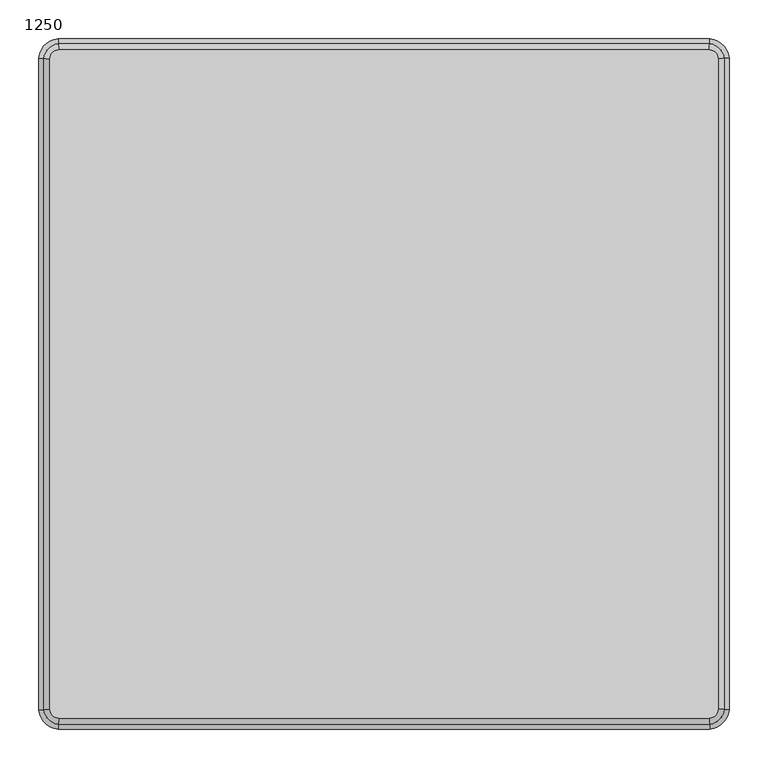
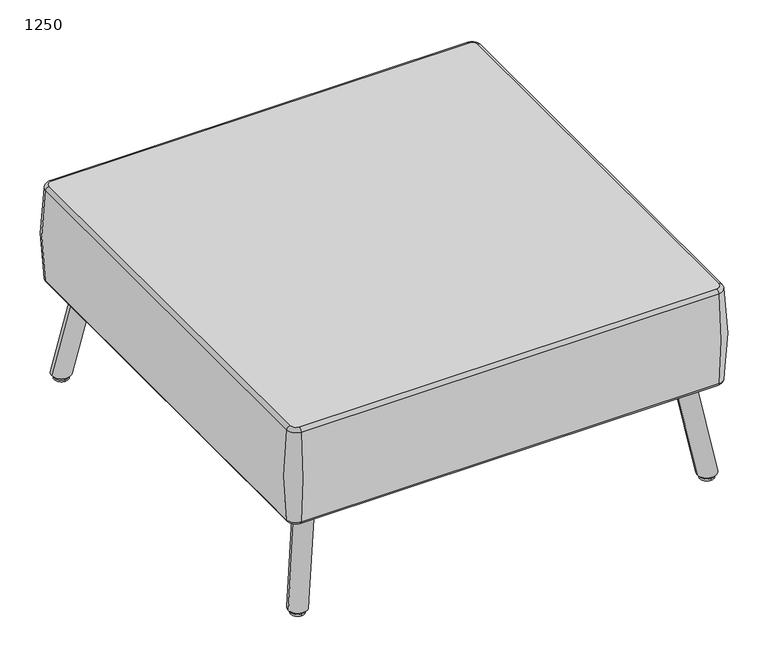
"""IFC4 building model written with IfcOpenShell, lengths in millimetres: furniture geometry, Laguna-Square_Ottomans-With_Legs-ERG : 1250."""

from ifc_helpers import new_model, si_unit, point, frame, frame_2d, origin, place, context, project, spatial, polyline, circle_curve, ellipse_curve, trimmed, segment, composite_curve, outline, extrude, source, transform, mapped, element, save
from ifc_brep_helpers import plane_surface, cylinder_surface, revolved_surface, spline_surface, advanced_brep


def furniture_1250_eddf934c(model_context):
    return source(origin(), model_context, "Body", "SolidModel", [
        advanced_brep(
        [(-4775.5733418, 1358.6509177, 406.4), (-4787.2364147, 1346.9878465, 406.4), (-4787.2364147, 511.7238539, 406.4), (-4775.5733418, 500.0607827, 406.4), (-3940.3102369, 500.0608348, 406.4), (-3928.6471657, 511.723906, 406.4), (-3928.6471657, 1346.9877943, 406.4), (-3940.3102369, 1358.6508656, 406.4), (-4787.2364147, 1346.9878465, 203.2), (-4775.5733418, 1358.6509177, 203.2), (-3940.3102369, 1358.6508656, 203.2), (-3928.6471657, 1346.9877943, 203.2), (-3928.6471657, 511.723906, 203.2), (-3940.3102369, 500.0608348, 203.2), (-4775.5733418, 500.0607827, 203.2), (-4787.2364147, 511.7238539, 203.2), (-4794.7723063, 1347.4949959, 399.7887299), (-4776.0804902, 1366.1868094, 399.7887299), (-4776.0804902, 1366.1868094, 209.8112701), (-4794.7723063, 1347.4949959, 209.8112701), (-4794.7723063, 511.2167044, 209.8112701), (-4794.7723063, 511.2167044, 399.7887299), (-4776.0804902, 492.5248909, 209.8112701), (-4776.0804902, 492.5248909, 399.7887299), (-3939.8030877, 492.5249431, 209.8112701), (-3939.8030877, 492.5249431, 399.7887299), (-3921.111274, 511.2167567, 209.8112701), (-3921.111274, 511.2167567, 399.7887299), (-3921.111274, 1347.4949436, 209.8112701), (-3921.111274, 1347.4949436, 399.7887299), (-3939.8030877, 1366.1867573, 209.8112701), (-3939.8030877, 1366.1867573, 399.7887299)],
        [
            (0, 1, circle_curve(frame((-4774.7318104, 1346.1463133, 406.4), z_axis=(0.0, 0.0, 1.0), x_axis=(-0.0671458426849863, 0.9977431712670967, 0.0)), 12.5328889)),
            (1, 2, circle_curve(frame((1418.487889, 929.3558502, 406.4), z_axis=(0.0, 0.0, 1.0), x_axis=(-0.9977431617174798, 0.06714598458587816, 0.0)), 6219.7612991)),
            (2, 3, circle_curve(frame((-4774.7318104, 512.565387, 406.4), z_axis=(0.0, 0.0, 1.0), x_axis=(-0.9977431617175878, -0.06714598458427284, 0.0)), 12.5328889)),
            (3, 4, circle_curve(frame((-4357.9421763, 6705.7859155, 406.4), z_axis=(0.0, 0.0, 1.0), x_axis=(-0.06714584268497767, -0.9977431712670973, 0.0)), 6219.7620706)),
            (4, 5, circle_curve(frame((-3941.1517699, 512.565439, 406.4), z_axis=(0.0, 0.0, 1.0), x_axis=(0.06714596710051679, -0.9977431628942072, 0.0)), 12.5328889)),
            (5, 6, circle_curve(frame((-10134.3722416, 929.3558502, 406.4), z_axis=(0.0, 0.0, 1.0), x_axis=(0.9977431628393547, -0.06714596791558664, 0.0)), 6219.7620661)),
            (6, 7, circle_curve(frame((-3941.1517699, 1346.1462613, 406.4), z_axis=(0.0, 0.0, 1.0), x_axis=(0.9977431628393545, 0.06714596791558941, 0.0)), 12.5328889)),
            (7, 0, circle_curve(frame((-4357.9421763, -4847.0742152, 406.4), z_axis=(0.0, 0.0, 1.0), x_axis=(0.06714596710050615, 0.9977431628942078, 0.0)), 6219.7620706)),
            (8, 9, circle_curve(frame((-4774.7318104, 1346.1463133, 203.2), z_axis=(0.0, 0.0, -1.0), x_axis=(-0.0671458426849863, 0.9977431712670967, 0.0)), 12.5328889)),
            (9, 10, circle_curve(frame((-4357.9421763, -4847.0742152, 203.2), z_axis=(0.0, 0.0, -1.0), x_axis=(0.06714596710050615, 0.9977431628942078, 0.0)), 6219.7620706)),
            (10, 11, circle_curve(frame((-3941.1517699, 1346.1462613, 203.2), z_axis=(0.0, 0.0, -1.0), x_axis=(0.9977431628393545, 0.06714596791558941, 0.0)), 12.5328889)),
            (11, 12, circle_curve(frame((-10134.3722416, 929.3558502, 203.2), z_axis=(0.0, 0.0, -1.0), x_axis=(0.9977431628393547, -0.06714596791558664, 0.0)), 6219.7620661)),
            (12, 13, circle_curve(frame((-3941.1517699, 512.565439, 203.2), z_axis=(0.0, 0.0, -1.0), x_axis=(0.06714596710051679, -0.9977431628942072, 0.0)), 12.5328889)),
            (13, 14, circle_curve(frame((-4357.9421763, 6705.7859155, 203.2), z_axis=(0.0, 0.0, -1.0), x_axis=(-0.06714584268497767, -0.9977431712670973, 0.0)), 6219.7620706)),
            (14, 15, circle_curve(frame((-4774.7318104, 512.565387, 203.2), z_axis=(0.0, 0.0, -1.0), x_axis=(-0.9977431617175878, -0.06714598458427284, 0.0)), 12.5328889)),
            (15, 8, circle_curve(frame((1418.487889, 929.3558502, 203.2), z_axis=(0.0, 0.0, -1.0), x_axis=(-0.9977431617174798, 0.06714598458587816, 0.0)), 6219.7612991)),
            (16, 17, circle_curve(frame((-4774.7318104, 1346.1463133, 399.7887299), z_axis=(0.0, 0.0, -1.0), x_axis=(-0.0671458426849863, 0.9977431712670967, 0.0)), 20.0858264)),
            (17, 18, circle_curve(frame((-4728.3240206, 656.5570022, 304.8), z_axis=(-0.9977431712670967, -0.06714584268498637, 0.0), x_axis=(0.06714584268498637, -0.9977431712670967, 0.0)), 717.55)),
            (18, 19, circle_curve(frame((-4774.7318104, 1346.1463133, 209.8112701), z_axis=(0.0, 0.0, 1.0), x_axis=(-0.0671458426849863, 0.9977431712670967, 0.0)), 20.0858264)),
            (19, 16, circle_curve(frame((-4085.1425059, 1299.7384254, 304.8), z_axis=(0.06714598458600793, 0.997743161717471, 0.0), x_axis=(0.997743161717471, -0.06714598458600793, 0.0)), 717.55)),
            (16, 1, circle_curve(frame((-4787.2364147, 1346.9878465, 398.78), z_axis=(0.06714598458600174, 0.9977431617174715, 0.0), x_axis=(0.9977431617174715, -0.06714598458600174, 0.0)), 7.62)),
            (0, 17, circle_curve(frame((-4775.5733418, 1358.6509177, 398.78), z_axis=(-0.9977431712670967, -0.06714584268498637, 0.0), x_axis=(0.06714584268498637, -0.9977431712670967, 0.0)), 7.62)),
            (18, 9, circle_curve(frame((-4775.5733418, 1358.6509177, 210.82), z_axis=(-0.9977431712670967, -0.06714584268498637, 0.0), x_axis=(0.06714584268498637, -0.9977431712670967, 0.0)), 7.62)),
            (8, 19, circle_curve(frame((-4787.2364147, 1346.9878465, 210.82), z_axis=(0.06714598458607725, 0.9977431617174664, 0.0), x_axis=(0.9977431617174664, -0.06714598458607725, 0.0)), 7.62)),
            (19, 20, circle_curve(frame((1418.487889, 929.3558502, 209.8112701), z_axis=(0.0, 0.0, 1.0), x_axis=(-0.9977431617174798, 0.06714598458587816, 0.0)), 6227.3142365)),
            (20, 21, circle_curve(frame((-4085.1425059, 558.9732749, 304.8), z_axis=(-0.06714598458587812, 0.9977431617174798, 0.0), x_axis=(0.9977431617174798, 0.06714598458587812, 0.0)), 717.55)),
            (21, 16, circle_curve(frame((1418.487889, 929.3558502, 399.7887299), z_axis=(0.0, 0.0, -1.0), x_axis=(-0.9977431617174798, 0.06714598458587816, 0.0)), 6227.3142365)),
            (21, 2, circle_curve(frame((-4787.2364147, 511.7238539, 398.78), z_axis=(-0.06714598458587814, 0.9977431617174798, 0.0), x_axis=(0.9977431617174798, 0.06714598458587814, 0.0)), 7.62)),
            (15, 20, circle_curve(frame((-4787.2364147, 511.7238539, 210.82), z_axis=(-0.06714598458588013, 0.9977431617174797, 0.0), x_axis=(0.9977431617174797, 0.06714598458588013, 0.0)), 7.62)),
            (20, 22, circle_curve(frame((-4774.7318104, 512.565387, 209.8112701), z_axis=(0.0, 0.0, 1.0), x_axis=(-0.9977431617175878, -0.06714598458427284, 0.0)), 20.0858264)),
            (22, 23, circle_curve(frame((-4728.3240206, 1202.1546981, 304.8), z_axis=(-0.9977431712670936, 0.06714584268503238, 0.0), x_axis=(0.06714584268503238, 0.9977431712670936, 0.0)), 717.55)),
            (23, 21, circle_curve(frame((-4774.7318104, 512.565387, 399.7887299), z_axis=(0.0, 0.0, -1.0), x_axis=(-0.9977431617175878, -0.06714598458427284, 0.0)), 20.0858264)),
            (23, 3, circle_curve(frame((-4775.5733418, 500.0607827, 398.78), z_axis=(-0.9977431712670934, 0.0671458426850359, 0.0), x_axis=(0.0671458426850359, 0.9977431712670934, 0.0)), 7.62)),
            (14, 22, circle_curve(frame((-4775.5733418, 500.0607827, 210.82), z_axis=(-0.9977431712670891, 0.06714584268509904, 0.0), x_axis=(0.06714584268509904, 0.9977431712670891, 0.0)), 7.62)),
            (22, 24, circle_curve(frame((-4357.9421763, 6705.7859155, 209.8112701), z_axis=(0.0, 0.0, 1.0), x_axis=(-0.06714584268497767, -0.9977431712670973, 0.0)), 6227.315008)),
            (24, 25, circle_curve(frame((-3987.5596457, 1202.1547443, 304.8), z_axis=(-0.9977431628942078, -0.06714596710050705, 0.0), x_axis=(-0.06714596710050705, 0.9977431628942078, 0.0)), 717.55)),
            (25, 23, circle_curve(frame((-4357.9421763, 6705.7859155, 399.7887299), z_axis=(0.0, 0.0, -1.0), x_axis=(-0.06714584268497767, -0.9977431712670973, 0.0)), 6227.315008)),
            (25, 4, circle_curve(frame((-3940.3102369, 500.0608348, 398.78), z_axis=(-0.9977431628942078, -0.06714596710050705, 0.0), x_axis=(-0.06714596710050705, 0.9977431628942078, 0.0)), 7.62)),
            (13, 24, circle_curve(frame((-3940.3102369, 500.0608348, 210.82), z_axis=(-0.9977431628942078, -0.06714596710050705, 0.0), x_axis=(-0.06714596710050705, 0.9977431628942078, 0.0)), 7.62)),
            (24, 26, circle_curve(frame((-3941.1517699, 512.565439, 209.8112701), z_axis=(0.0, 0.0, 1.0), x_axis=(0.06714596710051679, -0.9977431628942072, 0.0)), 20.0858264)),
            (26, 27, circle_curve(frame((-4630.7410752, 558.9733154, 304.8), z_axis=(-0.06714596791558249, -0.997743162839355, 0.0), x_axis=(-0.997743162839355, 0.06714596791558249, 0.0)), 717.55)),
            (27, 25, circle_curve(frame((-3941.1517699, 512.565439, 399.7887299), z_axis=(0.0, 0.0, -1.0), x_axis=(0.06714596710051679, -0.9977431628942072, 0.0)), 20.0858264)),
            (27, 5, circle_curve(frame((-3928.6471657, 511.723906, 398.78), z_axis=(-0.06714596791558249, -0.997743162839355, 0.0), x_axis=(-0.997743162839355, 0.06714596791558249, 0.0)), 7.62)),
            (12, 26, circle_curve(frame((-3928.6471657, 511.723906, 210.82), z_axis=(-0.06714596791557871, -0.9977431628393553, 0.0), x_axis=(-0.9977431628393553, 0.06714596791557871, 0.0)), 7.62)),
            (26, 28, circle_curve(frame((-10134.3722416, 929.3558502, 209.8112701), z_axis=(0.0, 0.0, 1.0), x_axis=(0.9977431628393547, -0.06714596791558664, 0.0)), 6227.3150036)),
            (28, 29, circle_curve(frame((-4630.7410752, 1299.738385, 304.8), z_axis=(0.06714596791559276, -0.9977431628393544, 0.0), x_axis=(-0.9977431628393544, -0.06714596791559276, 0.0)), 717.55)),
            (29, 27, circle_curve(frame((-10134.3722416, 929.3558502, 399.7887299), z_axis=(0.0, 0.0, -1.0), x_axis=(0.9977431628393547, -0.06714596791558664, 0.0)), 6227.3150036)),
            (29, 6, circle_curve(frame((-3928.6471657, 1346.9877943, 398.78), z_axis=(0.06714596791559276, -0.9977431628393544, 0.0), x_axis=(-0.9977431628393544, -0.06714596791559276, 0.0)), 7.62)),
            (11, 28, circle_curve(frame((-3928.6471657, 1346.9877943, 210.82), z_axis=(0.06714596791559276, -0.9977431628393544, 0.0), x_axis=(-0.9977431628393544, -0.06714596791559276, 0.0)), 7.62)),
            (28, 30, circle_curve(frame((-3941.1517699, 1346.1462613, 209.8112701), z_axis=(0.0, 0.0, 1.0), x_axis=(0.9977431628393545, 0.06714596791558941, 0.0)), 20.0858264)),
            (30, 31, circle_curve(frame((-3987.5596457, 656.556956, 304.8), z_axis=(0.9977431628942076, -0.06714596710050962, 0.0), x_axis=(-0.06714596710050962, -0.9977431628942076, 0.0)), 717.55)),
            (31, 29, circle_curve(frame((-3941.1517699, 1346.1462613, 399.7887299), z_axis=(0.0, 0.0, -1.0), x_axis=(0.9977431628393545, 0.06714596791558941, 0.0)), 20.0858264)),
            (31, 7, circle_curve(frame((-3940.3102369, 1358.6508656, 398.78), z_axis=(0.9977431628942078, -0.06714596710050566, 0.0), x_axis=(-0.06714596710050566, -0.9977431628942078, 0.0)), 7.62)),
            (10, 30, circle_curve(frame((-3940.3102369, 1358.6508656, 210.82), z_axis=(0.9977431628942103, -0.06714596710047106, 0.0), x_axis=(-0.06714596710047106, -0.9977431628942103, 0.0)), 7.62)),
            (17, 31, circle_curve(frame((-4357.9421763, -4847.0742152, 399.7887299), z_axis=(0.0, 0.0, -1.0), x_axis=(0.06714596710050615, 0.9977431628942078, 0.0)), 6227.315008)),
            (30, 18, circle_curve(frame((-4357.9421763, -4847.0742152, 209.8112701), z_axis=(0.0, 0.0, 1.0), x_axis=(0.06714596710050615, 0.9977431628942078, 0.0)), 6227.315008)),
        ],
        [
            plane_surface(frame((-4762.1989215, 1346.1463133, 406.4), z_axis=(0.0, 0.0, 1.0), x_axis=(0.0, 1.0, 0.0))),
            plane_surface(frame((-4762.1989215, 1346.1463133, 203.2), z_axis=(0.0, 0.0, -1.0), x_axis=(0.0, -1.0, 0.0))),
            revolved_surface(trimmed(ellipse_curve(frame((-4728.3240206, 656.5570022, 304.8), z_axis=(0.9977431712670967, 0.06714584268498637, 0.0), x_axis=(0.06714584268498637, -0.9977431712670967, 0.0)), 717.55, 717.55), [point((-4776.0804902, 1366.1868094, 209.8112701))], [point((-4776.0804902, 1366.1868094, 399.7887299))], True, "CARTESIAN"), (-4774.7318104, 1346.1463133, 0.0), (0.0, 0.0, 1.0)),
            revolved_surface(trimmed(ellipse_curve(frame((-4775.5733418, 1358.6509177, 398.78), z_axis=(0.9977431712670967, 0.06714584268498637, 0.0), x_axis=(0.06714584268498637, -0.9977431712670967, 0.0)), 7.62, 7.62), [point((-4776.0804902, 1366.1868094, 399.7887299))], [point((-4775.5733418, 1358.6509177, 406.4))], True, "CARTESIAN"), (-4774.7318104, 1346.1463133, 0.0), (0.0, 0.0, 1.0)),
            revolved_surface(trimmed(ellipse_curve(frame((-4775.5733418, 1358.6509177, 210.82), z_axis=(0.9977431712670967, 0.06714584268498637, 0.0), x_axis=(0.06714584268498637, -0.9977431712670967, 0.0)), 7.62, 7.62), [point((-4775.5733418, 1358.6509177, 203.2))], [point((-4776.0804902, 1366.1868094, 209.8112701))], True, "CARTESIAN"), (-4774.7318104, 1346.1463133, 0.0), (0.0, 0.0, 1.0)),
            revolved_surface(trimmed(ellipse_curve(frame((-4085.1425059, 1299.7384254, 304.8), z_axis=(0.06714598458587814, 0.9977431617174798, 0.0), x_axis=(0.9977431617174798, -0.06714598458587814, 0.0)), 717.55, 717.55), [point((-4794.7723063, 1347.4949959, 209.8112701))], [point((-4794.7723063, 1347.4949959, 399.7887299))], True, "CARTESIAN"), (1418.487889, 929.3558502, 0.0), (0.0, 0.0, 1.0)),
            revolved_surface(trimmed(ellipse_curve(frame((-4787.2364147, 1346.9878465, 398.78), z_axis=(0.06714598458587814, 0.9977431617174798, 0.0), x_axis=(0.9977431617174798, -0.06714598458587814, 0.0)), 7.62, 7.62), [point((-4794.7723063, 1347.4949959, 399.7887299))], [point((-4787.2364147, 1346.9878465, 406.4))], True, "CARTESIAN"), (1418.487889, 929.3558502, 0.0), (0.0, 0.0, 1.0)),
            revolved_surface(trimmed(ellipse_curve(frame((-4787.2364147, 1346.9878465, 210.82), z_axis=(0.06714598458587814, 0.9977431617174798, 0.0), x_axis=(0.9977431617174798, -0.06714598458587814, 0.0)), 7.62, 7.62), [point((-4787.2364147, 1346.9878465, 203.2))], [point((-4794.7723063, 1347.4949959, 209.8112701))], True, "CARTESIAN"), (1418.487889, 929.3558502, 0.0), (0.0, 0.0, 1.0)),
            revolved_surface(trimmed(ellipse_curve(frame((-4085.1425059, 558.9732749, 304.8), z_axis=(-0.06714598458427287, 0.9977431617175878, 0.0), x_axis=(0.9977431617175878, 0.06714598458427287, 0.0)), 717.55, 717.55), [point((-4794.7723063, 511.2167044, 209.8112701))], [point((-4794.7723063, 511.2167044, 399.7887299))], True, "CARTESIAN"), (-4774.7318104, 512.565387, 0.0), (0.0, 0.0, 1.0)),
            revolved_surface(trimmed(ellipse_curve(frame((-4787.2364147, 511.7238539, 398.78), z_axis=(-0.06714598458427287, 0.9977431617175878, 0.0), x_axis=(0.9977431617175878, 0.06714598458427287, 0.0)), 7.62, 7.62), [point((-4794.7723063, 511.2167044, 399.7887299))], [point((-4787.2364147, 511.7238539, 406.4))], True, "CARTESIAN"), (-4774.7318104, 512.565387, 0.0), (0.0, 0.0, 1.0)),
            revolved_surface(trimmed(ellipse_curve(frame((-4787.2364147, 511.7238539, 210.82), z_axis=(-0.06714598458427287, 0.9977431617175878, 0.0), x_axis=(0.9977431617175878, 0.06714598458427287, 0.0)), 7.62, 7.62), [point((-4787.2364147, 511.7238539, 203.2))], [point((-4794.7723063, 511.2167044, 209.8112701))], True, "CARTESIAN"), (-4774.7318104, 512.565387, 0.0), (0.0, 0.0, 1.0)),
            revolved_surface(trimmed(ellipse_curve(frame((-4728.3240206, 1202.1546981, 304.8), z_axis=(-0.9977431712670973, 0.06714584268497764, 0.0), x_axis=(0.06714584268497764, 0.9977431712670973, 0.0)), 717.55, 717.55), [point((-4776.0804902, 492.5248909, 209.8112701))], [point((-4776.0804902, 492.5248909, 399.7887299))], True, "CARTESIAN"), (-4357.9421763, 6705.7859155, 0.0), (0.0, 0.0, 1.0)),
            revolved_surface(trimmed(ellipse_curve(frame((-4775.5733418, 500.0607827, 398.78), z_axis=(-0.9977431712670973, 0.06714584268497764, 0.0), x_axis=(0.06714584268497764, 0.9977431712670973, 0.0)), 7.62, 7.62), [point((-4776.0804902, 492.5248909, 399.7887299))], [point((-4775.5733418, 500.0607827, 406.4))], True, "CARTESIAN"), (-4357.9421763, 6705.7859155, 0.0), (0.0, 0.0, 1.0)),
            revolved_surface(trimmed(ellipse_curve(frame((-4775.5733418, 500.0607827, 210.82), z_axis=(-0.9977431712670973, 0.06714584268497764, 0.0), x_axis=(0.06714584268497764, 0.9977431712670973, 0.0)), 7.62, 7.62), [point((-4775.5733418, 500.0607827, 203.2))], [point((-4776.0804902, 492.5248909, 209.8112701))], True, "CARTESIAN"), (-4357.9421763, 6705.7859155, 0.0), (0.0, 0.0, 1.0)),
            revolved_surface(trimmed(ellipse_curve(frame((-3987.5596457, 1202.1547443, 304.8), z_axis=(-0.9977431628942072, -0.06714596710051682, 0.0), x_axis=(-0.06714596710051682, 0.9977431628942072, 0.0)), 717.55, 717.55), [point((-3939.8030877, 492.5249431, 209.8112701))], [point((-3939.8030877, 492.5249431, 399.7887299))], True, "CARTESIAN"), (-3941.1517699, 512.565439, 0.0), (0.0, 0.0, 1.0)),
            revolved_surface(trimmed(ellipse_curve(frame((-3940.3102369, 500.0608348, 398.78), z_axis=(-0.9977431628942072, -0.06714596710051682, 0.0), x_axis=(-0.06714596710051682, 0.9977431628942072, 0.0)), 7.62, 7.62), [point((-3939.8030877, 492.5249431, 399.7887299))], [point((-3940.3102369, 500.0608348, 406.4))], True, "CARTESIAN"), (-3941.1517699, 512.565439, 0.0), (0.0, 0.0, 1.0)),
            revolved_surface(trimmed(ellipse_curve(frame((-3940.3102369, 500.0608348, 210.82), z_axis=(-0.9977431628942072, -0.06714596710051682, 0.0), x_axis=(-0.06714596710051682, 0.9977431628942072, 0.0)), 7.62, 7.62), [point((-3940.3102369, 500.0608348, 203.2))], [point((-3939.8030877, 492.5249431, 209.8112701))], True, "CARTESIAN"), (-3941.1517699, 512.565439, 0.0), (0.0, 0.0, 1.0)),
            revolved_surface(trimmed(ellipse_curve(frame((-4630.7410752, 558.9733154, 304.8), z_axis=(-0.06714596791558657, -0.9977431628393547, 0.0), x_axis=(-0.9977431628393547, 0.06714596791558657, 0.0)), 717.55, 717.55), [point((-3921.111274, 511.2167567, 209.8112701))], [point((-3921.111274, 511.2167567, 399.7887299))], True, "CARTESIAN"), (-10134.3722416, 929.3558502, 0.0), (0.0, 0.0, 1.0)),
            revolved_surface(trimmed(ellipse_curve(frame((-3928.6471657, 511.723906, 398.78), z_axis=(-0.06714596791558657, -0.9977431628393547, 0.0), x_axis=(-0.9977431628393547, 0.06714596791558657, 0.0)), 7.62, 7.62), [point((-3921.111274, 511.2167567, 399.7887299))], [point((-3928.6471657, 511.723906, 406.4))], True, "CARTESIAN"), (-10134.3722416, 929.3558502, 0.0), (0.0, 0.0, 1.0)),
            revolved_surface(trimmed(ellipse_curve(frame((-3928.6471657, 511.723906, 210.82), z_axis=(-0.06714596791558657, -0.9977431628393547, 0.0), x_axis=(-0.9977431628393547, 0.06714596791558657, 0.0)), 7.62, 7.62), [point((-3928.6471657, 511.723906, 203.2))], [point((-3921.111274, 511.2167567, 209.8112701))], True, "CARTESIAN"), (-10134.3722416, 929.3558502, 0.0), (0.0, 0.0, 1.0)),
            revolved_surface(trimmed(ellipse_curve(frame((-4630.7410752, 1299.738385, 304.8), z_axis=(0.06714596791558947, -0.9977431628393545, 0.0), x_axis=(-0.9977431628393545, -0.06714596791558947, 0.0)), 717.55, 717.55), [point((-3921.111274, 1347.4949436, 209.8112701))], [point((-3921.111274, 1347.4949436, 399.7887299))], True, "CARTESIAN"), (-3941.1517699, 1346.1462613, 0.0), (0.0, 0.0, 1.0)),
            revolved_surface(trimmed(ellipse_curve(frame((-3928.6471657, 1346.9877943, 398.78), z_axis=(0.06714596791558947, -0.9977431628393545, 0.0), x_axis=(-0.9977431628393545, -0.06714596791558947, 0.0)), 7.62, 7.62), [point((-3921.111274, 1347.4949436, 399.7887299))], [point((-3928.6471657, 1346.9877943, 406.4))], True, "CARTESIAN"), (-3941.1517699, 1346.1462613, 0.0), (0.0, 0.0, 1.0)),
            revolved_surface(trimmed(ellipse_curve(frame((-3928.6471657, 1346.9877943, 210.82), z_axis=(0.06714596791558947, -0.9977431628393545, 0.0), x_axis=(-0.9977431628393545, -0.06714596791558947, 0.0)), 7.62, 7.62), [point((-3928.6471657, 1346.9877943, 203.2))], [point((-3921.111274, 1347.4949436, 209.8112701))], True, "CARTESIAN"), (-3941.1517699, 1346.1462613, 0.0), (0.0, 0.0, 1.0)),
            revolved_surface(trimmed(ellipse_curve(frame((-3987.5596457, 656.556956, 304.8), z_axis=(0.9977431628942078, -0.06714596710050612, 0.0), x_axis=(-0.06714596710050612, -0.9977431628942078, 0.0)), 717.55, 717.55), [point((-3939.8030877, 1366.1867573, 209.8112701))], [point((-3939.8030877, 1366.1867573, 399.7887299))], True, "CARTESIAN"), (-4357.9421763, -4847.0742152, 0.0), (0.0, 0.0, 1.0)),
            revolved_surface(trimmed(ellipse_curve(frame((-3940.3102369, 1358.6508656, 398.78), z_axis=(0.9977431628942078, -0.06714596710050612, 0.0), x_axis=(-0.06714596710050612, -0.9977431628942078, 0.0)), 7.62, 7.62), [point((-3939.8030877, 1366.1867573, 399.7887299))], [point((-3940.3102369, 1358.6508656, 406.4))], True, "CARTESIAN"), (-4357.9421763, -4847.0742152, 0.0), (0.0, 0.0, 1.0)),
            revolved_surface(trimmed(ellipse_curve(frame((-3940.3102369, 1358.6508656, 210.82), z_axis=(0.9977431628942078, -0.06714596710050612, 0.0), x_axis=(-0.06714596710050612, -0.9977431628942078, 0.0)), 7.62, 7.62), [point((-3940.3102369, 1358.6508656, 203.2))], [point((-3939.8030877, 1366.1867573, 209.8112701))], True, "CARTESIAN"), (-4357.9421763, -4847.0742152, 0.0), (0.0, 0.0, 1.0)),
        ],
        [
            (0, [[1, 2, 3, 4, 5, 6, 7, 8]]),
            (1, [[9, 10, 11, 12, 13, 14, 15, 16]]),
            (2, [[17, 18, 19, 20]]),
            (3, [[-17, 21, -1, 22]]),
            (4, [[-19, 23, -9, 24]]),
            (5, [[-20, 25, 26, 27]]),
            (6, [[-21, -27, 28, -2]]),
            (7, [[-24, -16, 29, -25]]),
            (8, [[-26, 30, 31, 32]]),
            (9, [[-28, -32, 33, -3]]),
            (10, [[-29, -15, 34, -30]]),
            (11, [[-31, 35, 36, 37]]),
            (12, [[-33, -37, 38, -4]]),
            (13, [[-34, -14, 39, -35]]),
            (14, [[-36, 40, 41, 42]]),
            (15, [[-38, -42, 43, -5]]),
            (16, [[-39, -13, 44, -40]]),
            (17, [[-41, 45, 46, 47]]),
            (18, [[-43, -47, 48, -6]]),
            (19, [[-44, -12, 49, -45]]),
            (20, [[-46, 50, 51, 52]]),
            (21, [[-48, -52, 53, -7]]),
            (22, [[-49, -11, 54, -50]]),
            (23, [[-18, 55, -51, 56]]),
            (24, [[-22, -8, -53, -55]]),
            (25, [[-23, -56, -54, -10]]),
        ],
    ),
        extrude(outline(composite_curve([segment(trimmed(circle_curve(frame_2d((-4730.6187381, 1345.1376413)), 5.08), [point((-4734.2108405, 1348.7297438))], [point((-4727.0266356, 1348.7297438))], False, "CARTESIAN"), True, "CONTINUOUS"), segment(polyline([(-4727.0266356, 1348.7297438), (-4698.289816, 1319.9929242)]), True, "CONTINUOUS"), segment(trimmed(circle_curve(frame_2d((-4701.8819185, 1316.4008217)), 5.08), [point((-4698.289816, 1319.9929242))], [point((-4698.289816, 1312.8087193))], False, "CARTESIAN"), True, "CONTINUOUS"), segment(polyline([(-4698.289816, 1312.8087193), (-4741.3950454, 1269.7034899)]), True, "CONTINUOUS"), segment(trimmed(circle_curve(frame_2d((-4744.9871479, 1273.2955923)), 5.08), [point((-4741.3950454, 1269.7034899))], [point((-4748.5792503, 1269.7034899))], False, "CARTESIAN"), True, "CONTINUOUS"), segment(polyline([(-4748.5792503, 1269.7034899), (-4777.3160699, 1298.4403095)]), True, "CONTINUOUS"), segment(trimmed(circle_curve(frame_2d((-4773.7239674, 1302.0324119)), 5.08), [point((-4777.3160699, 1298.4403095))], [point((-4777.3160699, 1305.6245144))], False, "CARTESIAN"), True, "CONTINUOUS"), segment(polyline([(-4777.3160699, 1305.6245144), (-4734.2108405, 1348.7297438)]), True, "CONTINUOUS")], self_intersect=False)), frame((0.0, 0.0, 200.66), z_axis=(0.0, 0.0, 1.0), x_axis=(1.0, 0.0, 0.0)), (0.0, 0.0, 1.0), 2.54),
        extrude(outline(composite_curve([segment(polyline([(-3981.6735121, 1348.7297438), (-3938.5682827, 1305.6245144)]), True, "CONTINUOUS"), segment(trimmed(circle_curve(frame_2d((-3942.1603852, 1302.0324119)), 5.08), [point((-3938.5682827, 1305.6245144))], [point((-3938.5682827, 1298.4403095))], False, "CARTESIAN"), True, "CONTINUOUS"), segment(polyline([(-3938.5682827, 1298.4403095), (-3967.3051023, 1269.7034899)]), True, "CONTINUOUS"), segment(trimmed(circle_curve(frame_2d((-3970.8972048, 1273.2955923)), 5.08), [point((-3967.3051023, 1269.7034899))], [point((-3974.4893072, 1269.7034899))], False, "CARTESIAN"), True, "CONTINUOUS"), segment(polyline([(-3974.4893072, 1269.7034899), (-4017.5945366, 1312.8087193)]), True, "CONTINUOUS"), segment(trimmed(circle_curve(frame_2d((-4014.0024341, 1316.4008217)), 5.08), [point((-4017.5945366, 1312.8087193))], [point((-4017.5945366, 1319.9929242))], False, "CARTESIAN"), True, "CONTINUOUS"), segment(polyline([(-4017.5945366, 1319.9929242), (-3988.857717, 1348.7297438)]), True, "CONTINUOUS"), segment(trimmed(circle_curve(frame_2d((-3985.2656145, 1345.1376413)), 5.08), [point((-3988.857717, 1348.7297438))], [point((-3981.6735121, 1348.7297438))], False, "CARTESIAN"), True, "CONTINUOUS")], self_intersect=False)), frame((0.0, 0.0, 200.66), z_axis=(0.0, 0.0, 1.0), x_axis=(1.0, 0.0, 0.0)), (0.0, 0.0, 1.0), 2.54),
        extrude(outline(composite_curve([segment(trimmed(circle_curve(frame_2d((-3942.1603852, 556.6792884)), 5.08), [point((-3938.5682827, 560.2713909))], [point((-3938.5682827, 553.087186))], False, "CARTESIAN"), True, "CONTINUOUS"), segment(polyline([(-3938.5682827, 553.087186), (-3981.6735121, 509.9819566)]), True, "CONTINUOUS"), segment(trimmed(circle_curve(frame_2d((-3985.2656145, 513.574059)), 5.08), [point((-3981.6735121, 509.9819566))], [point((-3988.857717, 509.9819566))], False, "CARTESIAN"), True, "CONTINUOUS"), segment(polyline([(-3988.857717, 509.9819566), (-4017.5945366, 538.7187762)]), True, "CONTINUOUS"), segment(trimmed(circle_curve(frame_2d((-4014.0024341, 542.3108786)), 5.08), [point((-4017.5945366, 538.7187762))], [point((-4017.5945366, 545.9029811))], False, "CARTESIAN"), True, "CONTINUOUS"), segment(polyline([(-4017.5945366, 545.9029811), (-3974.4893072, 589.0082105)]), True, "CONTINUOUS"), segment(trimmed(circle_curve(frame_2d((-3970.8972048, 585.416108)), 5.08), [point((-3974.4893072, 589.0082105))], [point((-3967.3051023, 589.0082105))], False, "CARTESIAN"), True, "CONTINUOUS"), segment(polyline([(-3967.3051023, 589.0082105), (-3938.5682827, 560.2713909)]), True, "CONTINUOUS")], self_intersect=False)), frame((0.0, 0.0, 200.66), z_axis=(0.0, 0.0, 1.0), x_axis=(1.0, 0.0, 0.0)), (0.0, 0.0, 1.0), 2.54),
        extrude(outline(composite_curve([segment(polyline([(-4741.3950454, 589.0082105), (-4698.289816, 545.9029811)]), True, "CONTINUOUS"), segment(trimmed(circle_curve(frame_2d((-4701.8819185, 542.3108786)), 5.08), [point((-4698.289816, 545.9029811))], [point((-4698.289816, 538.7187762))], False, "CARTESIAN"), True, "CONTINUOUS"), segment(polyline([(-4698.289816, 538.7187762), (-4727.0266356, 509.9819566)]), True, "CONTINUOUS"), segment(trimmed(circle_curve(frame_2d((-4730.6187381, 513.574059)), 5.08), [point((-4727.0266356, 509.9819566))], [point((-4734.2108405, 509.9819566))], False, "CARTESIAN"), True, "CONTINUOUS"), segment(polyline([(-4734.2108405, 509.9819566), (-4777.3160699, 553.087186)]), True, "CONTINUOUS"), segment(trimmed(circle_curve(frame_2d((-4773.7239674, 556.6792884)), 5.08), [point((-4777.3160699, 553.087186))], [point((-4777.3160699, 560.2713909))], False, "CARTESIAN"), True, "CONTINUOUS"), segment(polyline([(-4777.3160699, 560.2713909), (-4748.5792503, 589.0082105)]), True, "CONTINUOUS"), segment(trimmed(circle_curve(frame_2d((-4744.9871479, 585.416108)), 5.08), [point((-4748.5792503, 589.0082105))], [point((-4741.3950454, 589.0082105))], False, "CARTESIAN"), True, "CONTINUOUS")], self_intersect=False)), frame((0.0, 0.0, 200.66), z_axis=(0.0, 0.0, 1.0), x_axis=(1.0, 0.0, 0.0)), (0.0, 0.0, 1.0), 2.54),
        advanced_brep(
        [(-4767.5048436, 524.036231, 10.16), (-4767.5048436, 515.5501347, 10.16), (-4767.5048436, 515.5501347, 3.9615026), (-4767.5048436, 524.036231, 3.9615026), (-4767.5048436, 505.7148294, 3.9615026), (-4767.5048436, 533.8715363, 3.9615026), (-4767.5048436, 505.7148294, 0.0), (-4767.5048436, 533.8715363, 0.0), (-4767.5048436, 519.7931828, 0.0), (-4767.5048436, 519.7931828, 10.16)],
        [
            (0, 1, circle_curve(frame((-4767.5048436, 519.7931828, 10.16), z_axis=(0.0, 0.0, -1.0), x_axis=(0.0, -1.0, 0.0)), 4.2430482)),
            (1, 2),
            (2, 3, circle_curve(frame((-4767.5048436, 519.7931828, 3.9615026), z_axis=(0.0, 0.0, 1.0), x_axis=(0.0, -1.0, 0.0)), 4.2430482)),
            (3, 0),
            (1, 0, circle_curve(frame((-4767.5048436, 519.7931828, 10.16), z_axis=(0.0, 0.0, -1.0), x_axis=(0.0, -1.0, 0.0)), 4.2430482)),
            (3, 2, circle_curve(frame((-4767.5048436, 519.7931828, 3.9615026), z_axis=(0.0, 0.0, 1.0), x_axis=(0.0, -1.0, 0.0)), 4.2430482)),
            (2, 4),
            (4, 5, circle_curve(frame((-4767.5048436, 519.7931828, 3.9615026), z_axis=(0.0, 0.0, 1.0), x_axis=(0.0, -1.0, 0.0)), 14.0783534)),
            (5, 3),
            (5, 4, circle_curve(frame((-4767.5048436, 519.7931828, 3.9615026), z_axis=(0.0, 0.0, 1.0), x_axis=(0.0, -1.0, 0.0)), 14.0783534)),
            (4, 6),
            (6, 7, circle_curve(frame((-4767.5048436, 519.7931828, 0.0), z_axis=(0.0, 0.0, 1.0), x_axis=(0.0, -1.0, 0.0)), 14.0783534)),
            (7, 5),
            (7, 6, circle_curve(frame((-4767.5048436, 519.7931828, 0.0), z_axis=(0.0, 0.0, 1.0), x_axis=(0.0, -1.0, 0.0)), 14.0783534)),
            (6, 8),
            (8, 7),
            (9, 1),
            (0, 9),
        ],
        [
            cylinder_surface(frame((-4767.5048436, 519.7931828, 20.9252452), z_axis=(0.0, 0.0, 1.0), x_axis=(0.0, -1.0, 0.0)), 4.2430482),
            plane_surface(frame((-4767.5048436, 519.7931828, 3.9615026), z_axis=(0.0, 0.0, 1.0), x_axis=(0.0, -1.0, 0.0))),
            cylinder_surface(frame((-4767.5048436, 519.7931828, 20.9252452), z_axis=(0.0, 0.0, 1.0), x_axis=(0.0, -1.0, 0.0)), 14.0783534),
            plane_surface(frame((-4767.5048436, 519.7931828, 0.0), z_axis=(0.0, 0.0, -1.0), x_axis=(0.0, -1.0, 0.0))),
            plane_surface(frame((-4767.5048436, 519.7931828, 10.16), z_axis=(0.0, 0.0, 1.0), x_axis=(0.0, -1.0, 0.0))),
        ],
        [
            (0, [[1, 2, 3, 4]]),
            (0, [[5, -4, 6, -2]]),
            (1, [[-3, 7, 8, 9]]),
            (1, [[-6, -9, 10, -7]]),
            (2, [[-8, 11, 12, 13]]),
            (2, [[-10, -13, 14, -11]]),
            (3, [[-12, 15, 16]]),
            (3, [[-14, -16, -15]]),
            (4, [[17, -1, 18]]),
            (4, [[-18, -5, -17]]),
        ],
    ),
        advanced_brep(
        [(-4767.5048436, 1343.1615656, 3.9615026), (-4767.5048436, 1334.6754693, 3.9615026), (-4767.5048436, 1324.8401641, 3.9615026), (-4767.5048436, 1352.9968709, 3.9615026), (-4767.5048436, 1324.8401641, 0.0), (-4767.5048436, 1352.9968709, 0.0), (-4767.5048436, 1338.9185175, 0.0), (-4767.5048436, 1338.9185175, 10.16), (-4767.5048436, 1334.6754693, 10.16), (-4767.5048436, 1343.1615656, 10.16)],
        [
            (0, 1, circle_curve(frame((-4767.5048436, 1338.9185175, 3.9615026), z_axis=(0.0, 0.0, -1.0), x_axis=(0.0, -1.0, 0.0)), 4.2430481)),
            (1, 2),
            (2, 3, circle_curve(frame((-4767.5048436, 1338.9185175, 3.9615026), z_axis=(0.0, 0.0, 1.0), x_axis=(0.0, -1.0, 0.0)), 14.0783534)),
            (3, 0),
            (1, 0, circle_curve(frame((-4767.5048436, 1338.9185175, 3.9615026), z_axis=(0.0, 0.0, -1.0), x_axis=(0.0, -1.0, 0.0)), 4.2430481)),
            (3, 2, circle_curve(frame((-4767.5048436, 1338.9185175, 3.9615026), z_axis=(0.0, 0.0, 1.0), x_axis=(0.0, -1.0, 0.0)), 14.0783534)),
            (2, 4),
            (4, 5, circle_curve(frame((-4767.5048436, 1338.9185175, 0.0), z_axis=(0.0, 0.0, 1.0), x_axis=(0.0, -1.0, 0.0)), 14.0783534)),
            (5, 3),
            (5, 4, circle_curve(frame((-4767.5048436, 1338.9185175, 0.0), z_axis=(0.0, 0.0, 1.0), x_axis=(0.0, -1.0, 0.0)), 14.0783534)),
            (4, 6),
            (6, 5),
            (7, 8),
            (8, 9, circle_curve(frame((-4767.5048436, 1338.9185175, 10.16), z_axis=(0.0, 0.0, 1.0), x_axis=(0.0, -1.0, 0.0)), 4.2430481)),
            (9, 7),
            (9, 8, circle_curve(frame((-4767.5048436, 1338.9185175, 10.16), z_axis=(0.0, 0.0, 1.0), x_axis=(0.0, -1.0, 0.0)), 4.2430481)),
            (8, 1),
            (0, 9),
        ],
        [
            plane_surface(frame((-4767.5048436, 1338.9185175, 3.9615026), z_axis=(0.0, 0.0, 1.0), x_axis=(0.0, -1.0, 0.0))),
            cylinder_surface(frame((-4767.5048436, 1338.9185175, 29.21), z_axis=(0.0, 0.0, 1.0), x_axis=(0.0, -1.0, 0.0)), 14.0783534),
            plane_surface(frame((-4767.5048436, 1338.9185175, 0.0), z_axis=(0.0, 0.0, -1.0), x_axis=(0.0, -1.0, 0.0))),
            plane_surface(frame((-4767.5048436, 1338.9185175, 10.16), z_axis=(0.0, 0.0, 1.0), x_axis=(0.0, -1.0, 0.0))),
            cylinder_surface(frame((-4767.5048436, 1338.9185175, 29.21), z_axis=(0.0, 0.0, 1.0), x_axis=(0.0, -1.0, 0.0)), 4.2430481),
        ],
        [
            (0, [[1, 2, 3, 4]]),
            (0, [[5, -4, 6, -2]]),
            (1, [[-3, 7, 8, 9]]),
            (1, [[-6, -9, 10, -7]]),
            (2, [[-8, 11, 12]]),
            (2, [[-10, -12, -11]]),
            (3, [[13, 14, 15]]),
            (3, [[-15, 16, -13]]),
            (4, [[-14, 17, -1, 18]]),
            (4, [[-16, -18, -5, -17]]),
        ],
    ),
        advanced_brep(
        [(-3948.379509, 524.036231, 3.9615026), (-3948.379509, 515.5501347, 3.9615026), (-3948.379509, 515.5501347, 10.16), (-3948.379509, 524.036231, 10.16), (-3948.379509, 533.8715363, 3.9615026), (-3948.379509, 505.7148294, 3.9615026), (-3948.379509, 533.8715363, 0.0), (-3948.379509, 505.7148294, 0.0), (-3948.379509, 519.7931828, 0.0), (-3948.379509, 519.7931828, 10.16)],
        [
            (0, 1, circle_curve(frame((-3948.379509, 519.7931828, 3.9615026), z_axis=(0.0, 0.0, 1.0), x_axis=(0.0, -1.0, 0.0)), 4.2430482)),
            (1, 2),
            (2, 3, circle_curve(frame((-3948.379509, 519.7931828, 10.16), z_axis=(0.0, 0.0, -1.0), x_axis=(0.0, -1.0, 0.0)), 4.2430482)),
            (3, 0),
            (1, 0, circle_curve(frame((-3948.379509, 519.7931828, 3.9615026), z_axis=(0.0, 0.0, 1.0), x_axis=(0.0, -1.0, 0.0)), 4.2430482)),
            (3, 2, circle_curve(frame((-3948.379509, 519.7931828, 10.16), z_axis=(0.0, 0.0, -1.0), x_axis=(0.0, -1.0, 0.0)), 4.2430482)),
            (4, 5, circle_curve(frame((-3948.379509, 519.7931828, 3.9615026), z_axis=(0.0, 0.0, 1.0), x_axis=(0.0, -1.0, 0.0)), 14.0783534)),
            (5, 1),
            (0, 4),
            (5, 4, circle_curve(frame((-3948.379509, 519.7931828, 3.9615026), z_axis=(0.0, 0.0, 1.0), x_axis=(0.0, -1.0, 0.0)), 14.0783534)),
            (6, 7, circle_curve(frame((-3948.379509, 519.7931828, 0.0), z_axis=(0.0, 0.0, 1.0), x_axis=(0.0, -1.0, 0.0)), 14.0783534)),
            (7, 5),
            (4, 6),
            (7, 6, circle_curve(frame((-3948.379509, 519.7931828, 0.0), z_axis=(0.0, 0.0, 1.0), x_axis=(0.0, -1.0, 0.0)), 14.0783534)),
            (8, 7),
            (6, 8),
            (2, 9),
            (9, 3),
        ],
        [
            cylinder_surface(frame((-3948.379509, 519.7931828, 20.9252452), z_axis=(0.0, 0.0, -1.0), x_axis=(0.0, -1.0, 0.0)), 4.2430482),
            plane_surface(frame((-3948.379509, 519.7931828, 3.9615026), z_axis=(0.0, 0.0, 1.0), x_axis=(0.0, -1.0, 0.0))),
            cylinder_surface(frame((-3948.379509, 519.7931828, 20.9252452), z_axis=(0.0, 0.0, -1.0), x_axis=(0.0, -1.0, 0.0)), 14.0783534),
            plane_surface(frame((-3948.379509, 519.7931828, 0.0), z_axis=(0.0, 0.0, -1.0), x_axis=(0.0, -1.0, 0.0))),
            plane_surface(frame((-3948.379509, 519.7931828, 10.16), z_axis=(0.0, 0.0, 1.0), x_axis=(0.0, -1.0, 0.0))),
        ],
        [
            (0, [[1, 2, 3, 4]]),
            (0, [[5, -4, 6, -2]]),
            (1, [[7, 8, -1, 9]]),
            (1, [[10, -9, -5, -8]]),
            (2, [[11, 12, -7, 13]]),
            (2, [[14, -13, -10, -12]]),
            (3, [[15, -11, 16]]),
            (3, [[-16, -14, -15]]),
            (4, [[-3, 17, 18]]),
            (4, [[-6, -18, -17]]),
        ],
    ),
        advanced_brep(
        [(-3948.379509, 1352.9968709, 3.9615026), (-3948.379509, 1324.8401641, 3.9615026), (-3948.379509, 1334.6754693, 3.9615026), (-3948.379509, 1343.1615656, 3.9615026), (-3948.379509, 1352.9968709, 0.0), (-3948.379509, 1324.8401641, 0.0), (-3948.379509, 1338.9185175, 0.0), (-3948.379509, 1343.1615656, 10.16), (-3948.379509, 1334.6754693, 10.16), (-3948.379509, 1338.9185175, 10.16)],
        [
            (0, 1, circle_curve(frame((-3948.379509, 1338.9185175, 3.9615026), z_axis=(0.0, 0.0, 1.0), x_axis=(0.0, -1.0, 0.0)), 14.0783534)),
            (1, 2),
            (2, 3, circle_curve(frame((-3948.379509, 1338.9185175, 3.9615026), z_axis=(0.0, 0.0, -1.0), x_axis=(0.0, -1.0, 0.0)), 4.2430481)),
            (3, 0),
            (1, 0, circle_curve(frame((-3948.379509, 1338.9185175, 3.9615026), z_axis=(0.0, 0.0, 1.0), x_axis=(0.0, -1.0, 0.0)), 14.0783534)),
            (3, 2, circle_curve(frame((-3948.379509, 1338.9185175, 3.9615026), z_axis=(0.0, 0.0, -1.0), x_axis=(0.0, -1.0, 0.0)), 4.2430481)),
            (4, 5, circle_curve(frame((-3948.379509, 1338.9185175, 0.0), z_axis=(0.0, 0.0, 1.0), x_axis=(0.0, -1.0, 0.0)), 14.0783534)),
            (5, 1),
            (0, 4),
            (5, 4, circle_curve(frame((-3948.379509, 1338.9185175, 0.0), z_axis=(0.0, 0.0, 1.0), x_axis=(0.0, -1.0, 0.0)), 14.0783534)),
            (6, 5),
            (4, 6),
            (7, 8, circle_curve(frame((-3948.379509, 1338.9185175, 10.16), z_axis=(0.0, 0.0, 1.0), x_axis=(0.0, -1.0, 0.0)), 4.2430481)),
            (8, 9),
            (9, 7),
            (8, 7, circle_curve(frame((-3948.379509, 1338.9185175, 10.16), z_axis=(0.0, 0.0, 1.0), x_axis=(0.0, -1.0, 0.0)), 4.2430481)),
            (2, 8),
            (7, 3),
        ],
        [
            plane_surface(frame((-3948.379509, 1338.9185175, 3.9615026), z_axis=(0.0, 0.0, 1.0), x_axis=(0.0, -1.0, 0.0))),
            cylinder_surface(frame((-3948.379509, 1338.9185175, 29.21), z_axis=(0.0, 0.0, -1.0), x_axis=(0.0, -1.0, 0.0)), 14.0783534),
            plane_surface(frame((-3948.379509, 1338.9185175, 0.0), z_axis=(0.0, 0.0, -1.0), x_axis=(0.0, -1.0, 0.0))),
            plane_surface(frame((-3948.379509, 1338.9185175, 10.16), z_axis=(0.0, 0.0, 1.0), x_axis=(0.0, -1.0, 0.0))),
            cylinder_surface(frame((-3948.379509, 1338.9185175, 29.21), z_axis=(0.0, 0.0, -1.0), x_axis=(0.0, -1.0, 0.0)), 4.2430481),
        ],
        [
            (0, [[1, 2, 3, 4]]),
            (0, [[5, -4, 6, -2]]),
            (1, [[7, 8, -1, 9]]),
            (1, [[10, -9, -5, -8]]),
            (2, [[11, -7, 12]]),
            (2, [[-12, -10, -11]]),
            (3, [[13, 14, 15]]),
            (3, [[16, -15, -14]]),
            (4, [[-3, 17, -13, 18]]),
            (4, [[-6, -18, -16, -17]]),
        ],
    ),
        advanced_brep(
        [(-4718.748749, 549.5091293, 203.2), (-4756.8290453, 549.5091293, 203.2), (-4748.3889568, 519.8309276, 10.16), (-4786.5452409, 519.8309276, 10.16)],
        [
            (0, 1, circle_curve(frame((-4737.7888971, 549.5091293, 203.2), z_axis=(0.0, 0.0, 1.0), x_axis=(-1.0, 0.0, 0.0)), 19.0401482)),
            (1, 0, circle_curve(frame((-4737.7888971, 549.5091293, 203.2), z_axis=(0.0, 0.0, 1.0), x_axis=(-1.0, 0.0, 0.0)), 19.0401482)),
            (2, 3, circle_curve(frame((-4767.4670988, 519.8309276, 10.16), z_axis=(0.0, 0.0, -1.0), x_axis=(-1.0, 0.0, 0.0)), 19.078142)),
            (3, 2, circle_curve(frame((-4767.4670988, 519.8309276, 10.16), z_axis=(0.0, 0.0, -1.0), x_axis=(-1.0, 0.0, 0.0)), 19.078142)),
            (2, 0),
            (1, 3),
        ],
        [
            plane_surface(frame((-4737.7888971, 549.5091293, 203.2), z_axis=(0.0, 0.0, 1.0), x_axis=(0.0, 1.0, 0.0))),
            plane_surface(frame((-4767.4670988, 519.8309276, 10.16), z_axis=(0.0, 0.0, -1.0), x_axis=(0.0, 1.0, 0.0))),
            spline_surface(2, 1, [[(-4786.5452409, 519.8309276, 10.16), (-4756.8290453, 549.5091293, 203.2)], [(-4786.5452409, 500.75278549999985, 10.16), (-4756.8290453, 530.4689811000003, 203.2)], [(-4767.4670988, 500.75278549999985, 10.16), (-4737.7888971, 530.4689811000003, 203.2)], [(-4748.3889567, 500.7527853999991, 10.16), (-4718.7487489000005, 530.4689810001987, 203.2)], [(-4748.3889568, 519.8309276, 10.16), (-4718.748749, 549.5091293, 203.2)]], [3, 2, 3], [2, 2], [0.0, 1.0, 2.0], [0.0, 1.0], weights=[[1.0, 1.0], [0.7071067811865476, 0.7071067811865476], [1.0, 1.0], [0.7071067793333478, 0.7071067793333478], [1.0, 1.0]]),
            spline_surface(2, 1, [[(-4748.3889568, 519.8309276, 10.16), (-4718.748749, 549.5091293, 203.2)], [(-4748.3889568, 538.9090695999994, 10.16), (-4718.748749, 568.5492773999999, 203.2)], [(-4767.4670988, 538.9090695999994, 10.16), (-4737.7888971, 568.5492773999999, 203.2)], [(-4786.545240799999, 538.9090694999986, 10.16), (-4756.8290452, 568.5492773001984, 203.2)], [(-4786.5452409, 519.8309276, 10.16), (-4756.8290453, 549.5091293, 203.2)]], [3, 2, 3], [2, 2], [0.0, 1.0, 2.0], [0.0, 1.0], weights=[[1.0, 1.0], [0.7071067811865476, 0.7071067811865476], [1.0, 1.0], [0.7071067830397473, 0.7071067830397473], [1.0, 1.0]]),
        ],
        [
            (0, [[1, 2]]),
            (1, [[3, 4]]),
            (2, [[-3, 5, -2, 6]]),
            (3, [[-4, -6, -1, -5]]),
        ],
    ),
        advanced_brep(
        [(-4718.748749, 1309.202571, 203.2), (-4756.8290453, 1309.202571, 203.2), (-4748.3889568, 1338.8807727, 10.16), (-4786.5452409, 1338.8807727, 10.16)],
        [
            (0, 1, circle_curve(frame((-4737.7888971, 1309.202571, 203.2), z_axis=(0.0, 0.0, 1.0), x_axis=(-1.0, 0.0, 0.0)), 19.0401482)),
            (1, 0, circle_curve(frame((-4737.7888971, 1309.202571, 203.2), z_axis=(0.0, 0.0, 1.0), x_axis=(-1.0, 0.0, 0.0)), 19.0401482)),
            (2, 3, circle_curve(frame((-4767.4670988, 1338.8807727, 10.16), z_axis=(0.0, 0.0, -1.0), x_axis=(-1.0, 0.0, 0.0)), 19.078142)),
            (3, 2, circle_curve(frame((-4767.4670988, 1338.8807727, 10.16), z_axis=(0.0, 0.0, -1.0), x_axis=(-1.0, 0.0, 0.0)), 19.078142)),
            (3, 1),
            (0, 2),
        ],
        [
            plane_surface(frame((-4737.7888971, 1309.202571, 203.2), z_axis=(0.0, 0.0, 1.0), x_axis=(0.0, 1.0, 0.0))),
            plane_surface(frame((-4767.4670988, 1338.8807727, 10.16), z_axis=(0.0, 0.0, -1.0), x_axis=(0.0, 1.0, 0.0))),
            spline_surface(2, 1, [[(-4748.3889568, 1338.8807727, 10.16), (-4718.748749, 1309.202571, 203.2)], [(-4748.3889568, 1357.9589146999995, 10.16), (-4718.748749, 1328.2427191, 203.2)], [(-4767.4670988, 1357.9589146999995, 10.16), (-4737.7888971, 1328.2427191, 203.2)], [(-4786.545240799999, 1357.9589145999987, 10.16), (-4756.8290452, 1328.2427190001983, 203.2)], [(-4786.5452409, 1338.8807727, 10.16), (-4756.8290453, 1309.202571, 203.2)]], [3, 2, 3], [2, 2], [0.0, 1.0, 2.0], [0.0, 1.0], weights=[[1.0, 1.0], [0.7071067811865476, 0.7071067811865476], [1.0, 1.0], [0.7071067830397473, 0.7071067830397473], [1.0, 1.0]]),
            spline_surface(2, 1, [[(-4786.5452409, 1338.8807727, 10.16), (-4756.8290453, 1309.202571, 203.2)], [(-4786.5452409, 1319.8026306, 10.16), (-4756.8290453, 1290.1624228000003, 203.2)], [(-4767.4670988, 1319.8026306, 10.16), (-4737.7888971, 1290.1624228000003, 203.2)], [(-4748.3889567, 1319.8026304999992, 10.16), (-4718.7487489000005, 1290.1624227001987, 203.2)], [(-4748.3889568, 1338.8807727, 10.16), (-4718.748749, 1309.202571, 203.2)]], [3, 2, 3], [2, 2], [0.0, 1.0, 2.0], [0.0, 1.0], weights=[[1.0, 1.0], [0.7071067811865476, 0.7071067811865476], [1.0, 1.0], [0.7071067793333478, 0.7071067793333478], [1.0, 1.0]]),
        ],
        [
            (0, [[1, 2]]),
            (1, [[3, 4]]),
            (2, [[-4, 5, -1, 6]]),
            (3, [[-3, -6, -2, -5]]),
        ],
    ),
        advanced_brep(
        [(-3997.1356037, 1309.202571, 203.2), (-3959.0553073, 1309.202571, 203.2), (-3967.4953958, 1338.8807727, 10.16), (-3929.3391118, 1338.8807727, 10.16)],
        [
            (0, 1, circle_curve(frame((-3978.0954555, 1309.202571, 203.2), z_axis=(0.0, 0.0, 1.0), x_axis=(1.0, 0.0, 0.0)), 19.0401482)),
            (1, 0, circle_curve(frame((-3978.0954555, 1309.202571, 203.2), z_axis=(0.0, 0.0, 1.0), x_axis=(1.0, 0.0, 0.0)), 19.0401482)),
            (2, 3, circle_curve(frame((-3948.4172538, 1338.8807727, 10.16), z_axis=(0.0, 0.0, -1.0), x_axis=(1.0, 0.0, 0.0)), 19.078142)),
            (3, 2, circle_curve(frame((-3948.4172538, 1338.8807727, 10.16), z_axis=(0.0, 0.0, -1.0), x_axis=(1.0, 0.0, 0.0)), 19.078142)),
            (2, 0),
            (1, 3),
        ],
        [
            plane_surface(frame((-3978.0954555, 1309.202571, 203.2), z_axis=(0.0, 0.0, 1.0), x_axis=(0.0, -1.0, 0.0))),
            plane_surface(frame((-3948.4172538, 1338.8807727, 10.16), z_axis=(0.0, 0.0, -1.0), x_axis=(0.0, -1.0, 0.0))),
            spline_surface(2, 1, [[(-3929.3391118, 1338.8807727, 10.16), (-3959.0553073, 1309.202571, 203.2)], [(-3929.3391118, 1357.9589147, 10.16), (-3959.0553073, 1328.2427191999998, 203.2)], [(-3948.4172538, 1357.9589147, 10.16), (-3978.0954555, 1328.2427191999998, 203.2)], [(-3967.4953957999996, 1357.9589146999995, 10.16), (-3997.1356036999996, 1328.2427191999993, 203.2)], [(-3967.4953958, 1338.8807727, 10.16), (-3997.1356037, 1309.202571, 203.2)]], [3, 2, 3], [2, 2], [0.0, 1.0, 2.0], [0.0, 1.0], weights=[[1.0, 1.0], [0.7071067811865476, 0.7071067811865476], [1.0, 1.0], [0.707106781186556, 0.707106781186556], [1.0, 1.0]]),
            spline_surface(2, 1, [[(-3967.4953958, 1338.8807727, 10.16), (-3997.1356037, 1309.202571, 203.2)], [(-3967.4953958, 1319.8026306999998, 10.16), (-3997.1356037, 1290.1624227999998, 203.2)], [(-3948.4172538, 1319.8026306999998, 10.16), (-3978.0954555, 1290.1624227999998, 203.2)], [(-3929.3391117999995, 1319.8026306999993, 10.16), (-3959.0553072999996, 1290.1624227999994, 203.2)], [(-3929.3391118, 1338.8807727, 10.16), (-3959.0553073, 1309.202571, 203.2)]], [3, 2, 3], [2, 2], [0.0, 1.0, 2.0], [0.0, 1.0], weights=[[1.0, 1.0], [0.7071067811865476, 0.7071067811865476], [1.0, 1.0], [0.7071067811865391, 0.7071067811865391], [1.0, 1.0]]),
        ],
        [
            (0, [[1, 2]]),
            (1, [[3, 4]]),
            (2, [[-3, 5, -2, 6]]),
            (3, [[-4, -6, -1, -5]]),
        ],
    ),
        advanced_brep(
        [(-3997.1356037, 549.5091293, 203.2), (-3959.0553073, 549.5091293, 203.2), (-3967.4953958, 519.8309276, 10.16), (-3929.3391118, 519.8309276, 10.16)],
        [
            (0, 1, circle_curve(frame((-3978.0954555, 549.5091293, 203.2), z_axis=(0.0, 0.0, 1.0), x_axis=(1.0, 0.0, 0.0)), 19.0401482)),
            (1, 0, circle_curve(frame((-3978.0954555, 549.5091293, 203.2), z_axis=(0.0, 0.0, 1.0), x_axis=(1.0, 0.0, 0.0)), 19.0401482)),
            (2, 3, circle_curve(frame((-3948.4172538, 519.8309276, 10.16), z_axis=(0.0, 0.0, -1.0), x_axis=(1.0, 0.0, 0.0)), 19.078142)),
            (3, 2, circle_curve(frame((-3948.4172538, 519.8309276, 10.16), z_axis=(0.0, 0.0, -1.0), x_axis=(1.0, 0.0, 0.0)), 19.078142)),
            (3, 1),
            (0, 2),
        ],
        [
            plane_surface(frame((-3978.0954555, 549.5091293, 203.2), z_axis=(0.0, 0.0, 1.0), x_axis=(0.0, -1.0, 0.0))),
            plane_surface(frame((-3948.4172538, 519.8309276, 10.16), z_axis=(0.0, 0.0, -1.0), x_axis=(0.0, -1.0, 0.0))),
            spline_surface(2, 1, [[(-3967.4953958, 519.8309276, 10.16), (-3997.1356037, 549.5091293, 203.2)], [(-3967.4953958, 500.7527855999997, 10.16), (-3997.1356037, 530.4689810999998, 203.2)], [(-3948.4172538, 500.7527855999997, 10.16), (-3978.0954555, 530.4689810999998, 203.2)], [(-3929.3391117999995, 500.75278559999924, 10.16), (-3959.0553072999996, 530.4689810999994, 203.2)], [(-3929.3391118, 519.8309276, 10.16), (-3959.0553073, 549.5091293, 203.2)]], [3, 2, 3], [2, 2], [0.0, 1.0, 2.0], [0.0, 1.0], weights=[[1.0, 1.0], [0.7071067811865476, 0.7071067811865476], [1.0, 1.0], [0.7071067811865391, 0.7071067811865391], [1.0, 1.0]]),
            spline_surface(2, 1, [[(-3929.3391118, 519.8309276, 10.16), (-3959.0553073, 549.5091293, 203.2)], [(-3929.3391118, 538.9090695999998, 10.16), (-3959.0553073, 568.5492774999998, 203.2)], [(-3948.4172538, 538.9090695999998, 10.16), (-3978.0954555, 568.5492774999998, 203.2)], [(-3967.4953957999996, 538.9090695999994, 10.16), (-3997.1356036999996, 568.5492774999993, 203.2)], [(-3967.4953958, 519.8309276, 10.16), (-3997.1356037, 549.5091293, 203.2)]], [3, 2, 3], [2, 2], [0.0, 1.0, 2.0], [0.0, 1.0], weights=[[1.0, 1.0], [0.7071067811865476, 0.7071067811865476], [1.0, 1.0], [0.707106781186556, 0.707106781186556], [1.0, 1.0]]),
        ],
        [
            (0, [[1, 2]]),
            (1, [[3, 4]]),
            (2, [[-4, 5, -1, 6]]),
            (3, [[-3, -6, -2, -5]]),
        ],
    ),
    ])


if __name__ == "__main__":
    model = new_model("IFC4")
    model_context = context("Model", 3, world=origin())
    ifc_project = project(units=[si_unit("LENGTHUNIT", "METRE", prefix="MILLI")], contexts=[model_context])
    site = spatial("IfcSite", under=ifc_project)
    building = spatial("IfcBuilding", under=site)
    placement = place(None, origin())
    furniture_1250_shape = furniture_1250_eddf934c(model_context)
    element("IfcFurniture", 1, ObjectType="Laguna-Square_Ottomans-With_Legs-ERG : 1250", at=placement, inside=building, context=model_context, shape_type="MappedRepresentation", body=[
        mapped(furniture_1250_shape, transform((0.0, 0.0, 0.0), x_axis=(1.0, 0.0, 0.0), y_axis=(0.0, 1.0, 0.0), z_axis=(0.0, 0.0, 1.0))),
    ])
    save(model, "model.ifc")
